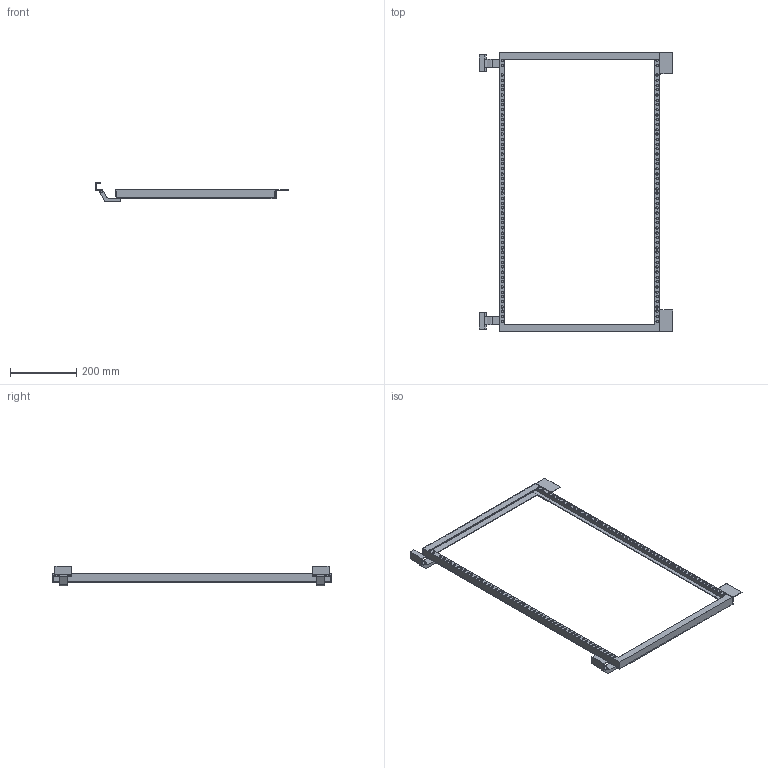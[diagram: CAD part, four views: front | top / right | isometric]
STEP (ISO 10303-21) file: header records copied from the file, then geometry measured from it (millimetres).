
FILE_DESCRIPTION((''),'1');
FILE_NAME('3','2001-04-18T',('jlue'),(''),'PRO/ENGINEER BY PARAMETRIC TECHNOLOGY CORPORATION, 9846','PRO/ENGINEER BY PARAMETRIC TECHNOLOGY CORPORATION, 9846','');
FILE_SCHEMA(('CONFIG_CONTROL_DESIGN'));
Length unit declared in the file: inch
Products named in the file (1): 3
Bounding box: 581.43 x 838.96 x 58.67 mm (x, y, z)
Surface area: 332887.3 mm2 (no closed solid volume)
Topology: 0 solids, 0 shells, 305 faces, 1868 edges, 1976 vertices
Faces by surface type: cylinder 232, plane 73
Entity records: 9564 total; most frequent: DIRECTION 2062, COMPOSITE_CURVE_SEGMENT 1760, CARTESIAN_POINT 1293, TRIMMED_CURVE 988, AXIS2_PLACEMENT_3D 769, VECTOR 524, LINE 524, CIRCLE 464
